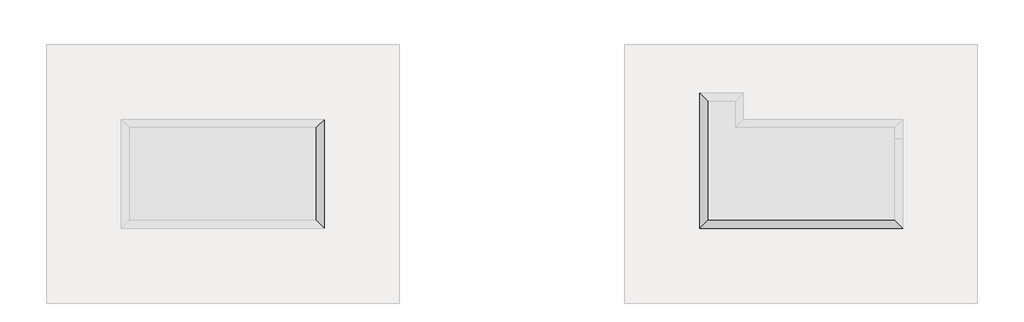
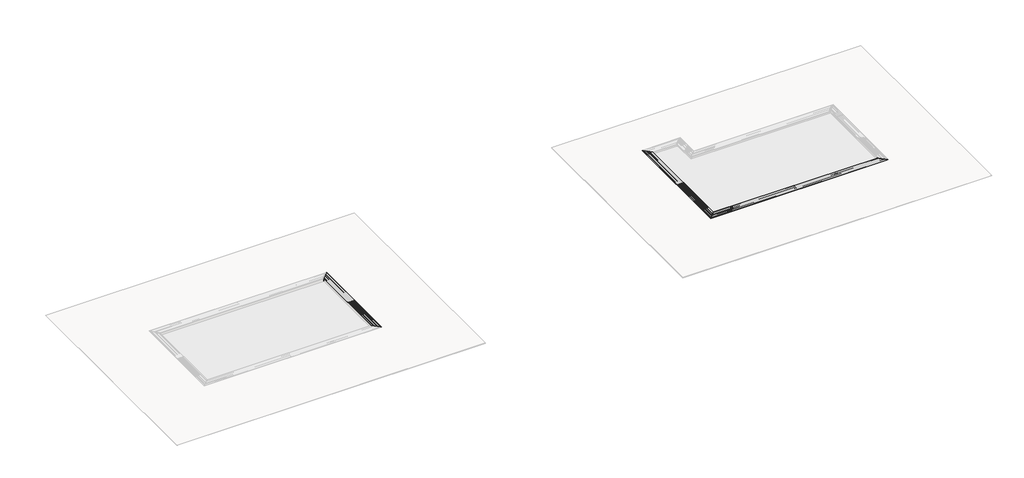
# One storey, part 3 of 5: 6 proxies.
"""IFC4 building model written with IfcOpenShell, lengths in millimetres."""

from ifc_helpers import new_model, si_unit, frame, origin, place, context, project, spatial, polyline, outline, extrude, faceted_brep, element, save

model = new_model("IFC4")

# Units and contexts
model_context = context("Model", 3, world=origin())
ifc_project = project(units=[si_unit("LENGTHUNIT", "METRE", prefix="MILLI")], contexts=[model_context])

# Site, building, storey
site = spatial("IfcSite", under=ifc_project)
building = spatial("IfcBuilding", under=site)
storey = spatial("IfcBuildingStorey", under=building, Name="EXAGRES_Serie MILAN_Piscinas_ejemplo", Elevation=0.0)

# Proxies
placement = place(None, origin())
element("IfcBuildingElementProxy", 1, Name="Wall Sweeps", at=placement, inside=storey, context=model_context, shape_type="SweptSolid", body=[
    extrude(outline(polyline([(-13485.3292468, -9624.7035945), (-13790.3292468, -9319.7035945), (-5150.3292468, -9319.7035945), (-5455.3292468, -9624.7035945), (-13485.3292468, -9624.7035945)])), frame((0.0, 0.0, -181.26), z_axis=(0.0, 0.0, 1.0), x_axis=(1.0, 0.0, 0.0)), (0.0, 0.0, 1.0), 200.0),
])
element("IfcBuildingElementProxy", 2, Name="Wall Sweeps", at=placement, inside=storey, context=model_context, shape_type="Brep", body=[
    faceted_brep([(19242.6707532, -13652.7035945, 0.0), (19229.6707532, -13639.7035945, 0.0), (19229.6707532, -13639.7035945, 33.0), (19559.6707532, -13969.7035945, 33.0), (19559.6707532, -13969.7035945, 21.0), (19553.6707532, -13963.7035945, 21.0), (19553.6707532, -13963.7035945, 22.0), (19549.6707532, -13959.7035945, 22.0), (19549.6707532, -13959.7035945, 21.0), (19543.6707532, -13953.7035945, 21.0), (19543.6707532, -13953.7035945, 22.0), (19539.6707532, -13949.7035945, 22.0), (19539.6707532, -13949.7035945, 21.0), (19533.6707532, -13943.7035945, 21.0), (19533.6707532, -13943.7035945, 22.0), (19529.6707532, -13939.7035945, 22.0), (19529.6707532, -13939.7035945, 21.0), (19523.6707532, -13933.7035945, 21.0), (19523.6707532, -13933.7035945, 22.0), (19519.6707532, -13929.7035945, 22.0), (19519.6707532, -13929.7035945, 21.0), (19513.6707532, -13923.7035945, 21.0), (19513.6707532, -13923.7035945, 22.0), (19509.6707532, -13919.7035945, 22.0), (19509.6707532, -13919.7035945, 21.0), (19503.6707532, -13913.7035945, 21.0), (19503.6707532, -13913.7035945, 22.0), (19499.6707532, -13909.7035945, 22.0), (19499.6707532, -13909.7035945, 21.0), (19493.6707532, -13903.7035945, 21.0), (19493.6707532, -13903.7035945, 22.0), (19489.6707532, -13899.7035945, 22.0), (19489.6707532, -13899.7035945, 21.0), (19483.6707532, -13893.7035945, 21.0), (19483.6707532, -13893.7035945, 22.0), (19479.6707532, -13889.7035945, 22.0), (19479.6707532, -13889.7035945, 21.0), (19473.6707532, -13883.7035945, 21.0), (19473.6707532, -13883.7035945, 22.0), (19469.6707532, -13879.7035945, 22.0), (19469.6707532, -13879.7035945, 21.0), (19463.6707532, -13873.7035945, 21.0), (19463.6707532, -13873.7035945, 22.0), (19459.6707532, -13869.7035945, 22.0), (19459.6707532, -13869.7035945, 21.0), (19453.6707532, -13863.7035945, 21.0), (19453.6707532, -13863.7035945, 22.0), (19449.6707532, -13859.7035945, 22.0), (19449.6707532, -13859.7035945, 21.0), (19443.6707532, -13853.7035945, 21.0), (19443.6707532, -13853.7035945, 22.0), (19439.6707532, -13849.7035945, 22.0), (19439.6707532, -13849.7035945, 21.0), (19433.6707532, -13843.7035945, 21.0), (19433.6707532, -13843.7035945, 22.0), (19429.6707532, -13839.7035945, 22.0), (19429.6707532, -13839.7035945, 21.0), (19423.6707532, -13833.7035945, 21.0), (19423.6707532, -13833.7035945, 22.0), (19419.6707532, -13829.7035945, 22.0), (19419.6707532, -13829.7035945, 21.0), (19413.6707532, -13823.7035945, 21.0), (19413.6707532, -13823.7035945, 22.0), (19409.6707532, -13819.7035945, 22.0), (19409.6707532, -13819.7035945, 21.0), (19403.6707532, -13813.7035945, 21.0), (19403.6707532, -13813.7035945, 22.0), (19399.6707532, -13809.7035945, 22.0), (19399.6707532, -13809.7035945, 21.0), (19393.6707532, -13803.7035945, 21.0), (19393.6707532, -13803.7035945, 22.0), (19389.6707532, -13799.7035945, 22.0), (19389.6707532, -13799.7035945, 21.0), (19383.6707532, -13793.7035945, 21.0), (19383.6707532, -13793.7035945, 22.0), (19379.6707532, -13789.7035945, 22.0), (19379.6707532, -13789.7035945, 21.0), (19373.6707532, -13783.7035945, 21.0), (19373.6707532, -13783.7035945, 22.0), (19369.6707532, -13779.7035945, 22.0), (19369.6707532, -13779.7035945, 21.0), (19363.6707532, -13773.7035945, 21.0), (19363.6707532, -13773.7035945, 22.0), (19359.6707532, -13769.7035945, 22.0), (19359.6707532, -13769.7035945, 21.0), (19353.6707532, -13763.7035945, 21.0), (19353.6707532, -13763.7035945, 22.0), (19349.6707532, -13759.7035945, 22.0), (19349.6707532, -13759.7035945, 21.0), (19343.6707532, -13753.7035945, 21.0), (19343.6707532, -13753.7035945, 22.0), (19339.6707532, -13749.7035945, 22.0), (19339.6707532, -13749.7035945, 21.0), (19333.6707532, -13743.7035945, 21.0), (19333.6707532, -13743.7035945, 22.0), (19329.6707532, -13739.7035945, 22.0), (19329.6707532, -13739.7035945, 21.0), (19323.6707532, -13733.7035945, 21.0), (19323.6707532, -13733.7035945, 22.0), (19319.6707532, -13729.7035945, 22.0), (19319.6707532, -13729.7035945, 21.0), (19313.6707532, -13723.7035945, 21.0), (19313.6707532, -13723.7035945, 22.0), (19309.6707532, -13719.7035945, 22.0), (19309.6707532, -13719.7035945, 21.0), (19303.6707532, -13713.7035945, 21.0), (19303.6707532, -13713.7035945, 22.0), (19299.6707532, -13709.7035945, 22.0), (19299.6707532, -13709.7035945, 21.0), (19293.6707532, -13703.7035945, 21.0), (19293.6707532, -13703.7035945, 22.0), (19289.6707532, -13699.7035945, 22.0), (19289.6707532, -13699.7035945, 21.0), (19283.6707532, -13693.7035945, 21.0), (19283.6707532, -13693.7035945, 22.0), (19279.6707532, -13689.7035945, 22.0), (19279.6707532, -13689.7035945, 21.0), (19273.6707532, -13683.7035945, 21.0), (19273.6707532, -13683.7035945, 22.0), (19269.6707532, -13679.7035945, 22.0), (19269.6707532, -13679.7035945, 21.0), (19263.6707532, -13673.7035945, 21.0), (19263.6707532, -13673.7035945, 22.0), (19259.6707532, -13669.7035945, 22.0), (19259.6707532, -13669.7035945, 21.0), (19253.6707532, -13663.7035945, 21.0), (19253.6707532, -13663.7035945, 22.0), (19249.6707532, -13659.7035945, 22.0), (19249.6707532, -13659.7035945, 21.0), (19242.6707532, -13652.7035945, 21.0), (19242.6707532, -13652.7035945, 14.0), (19241.6707532, -13651.7035945, 14.0), (19241.6707532, -13651.7035945, 8.0), (19242.6707532, -13652.7035945, 8.0), (11216.6707532, -13652.7035945, 0.0), (11216.6707532, -13652.7035945, 8.0), (11217.6707532, -13651.7035945, 8.0), (11217.6707532, -13651.7035945, 14.0), (11216.6707532, -13652.7035945, 14.0), (11216.6707532, -13652.7035945, 21.0), (11209.6707532, -13659.7035945, 21.0), (11209.6707532, -13659.7035945, 22.0), (11205.6707532, -13663.7035945, 22.0), (11205.6707532, -13663.7035945, 21.0), (11199.6707532, -13669.7035945, 21.0), (11199.6707532, -13669.7035945, 22.0), (11195.6707532, -13673.7035945, 22.0), (11195.6707532, -13673.7035945, 21.0), (11189.6707532, -13679.7035945, 21.0), (11189.6707532, -13679.7035945, 22.0), (11185.6707532, -13683.7035945, 22.0), (11185.6707532, -13683.7035945, 21.0), (11179.6707532, -13689.7035945, 21.0), (11179.6707532, -13689.7035945, 22.0), (11175.6707532, -13693.7035945, 22.0), (11175.6707532, -13693.7035945, 21.0), (11169.6707532, -13699.7035945, 21.0), (11169.6707532, -13699.7035945, 22.0), (11165.6707532, -13703.7035945, 22.0), (11165.6707532, -13703.7035945, 21.0), (11159.6707532, -13709.7035945, 21.0), (11159.6707532, -13709.7035945, 22.0), (11155.6707532, -13713.7035945, 22.0), (11155.6707532, -13713.7035945, 21.0), (11149.6707532, -13719.7035945, 21.0), (11149.6707532, -13719.7035945, 22.0), (11145.6707532, -13723.7035945, 22.0), (11145.6707532, -13723.7035945, 21.0), (11139.6707532, -13729.7035945, 21.0), (11139.6707532, -13729.7035945, 22.0), (11135.6707532, -13733.7035945, 22.0), (11135.6707532, -13733.7035945, 21.0), (11129.6707532, -13739.7035945, 21.0), (11129.6707532, -13739.7035945, 22.0), (11125.6707532, -13743.7035945, 22.0), (11125.6707532, -13743.7035945, 21.0), (11119.6707532, -13749.7035945, 21.0), (11119.6707532, -13749.7035945, 22.0), (11115.6707532, -13753.7035945, 22.0), (11115.6707532, -13753.7035945, 21.0), (11109.6707532, -13759.7035945, 21.0), (11109.6707532, -13759.7035945, 22.0), (11105.6707532, -13763.7035945, 22.0), (11105.6707532, -13763.7035945, 21.0), (11099.6707532, -13769.7035945, 21.0), (11099.6707532, -13769.7035945, 22.0), (11095.6707532, -13773.7035945, 22.0), (11095.6707532, -13773.7035945, 21.0), (11089.6707532, -13779.7035945, 21.0), (11089.6707532, -13779.7035945, 22.0), (11085.6707532, -13783.7035945, 22.0), (11085.6707532, -13783.7035945, 21.0), (11079.6707532, -13789.7035945, 21.0), (11079.6707532, -13789.7035945, 22.0), (11075.6707532, -13793.7035945, 22.0), (11075.6707532, -13793.7035945, 21.0), (11069.6707532, -13799.7035945, 21.0), (11069.6707532, -13799.7035945, 22.0), (11065.6707532, -13803.7035945, 22.0), (11065.6707532, -13803.7035945, 21.0), (11059.6707532, -13809.7035945, 21.0), (11059.6707532, -13809.7035945, 22.0), (11055.6707532, -13813.7035945, 22.0), (11055.6707532, -13813.7035945, 21.0), (11049.6707532, -13819.7035945, 21.0), (11049.6707532, -13819.7035945, 22.0), (11045.6707532, -13823.7035945, 22.0), (11045.6707532, -13823.7035945, 21.0), (11039.6707532, -13829.7035945, 21.0), (11039.6707532, -13829.7035945, 22.0), (11035.6707532, -13833.7035945, 22.0), (11035.6707532, -13833.7035945, 21.0), (11029.6707532, -13839.7035945, 21.0), (11029.6707532, -13839.7035945, 22.0), (11025.6707532, -13843.7035945, 22.0), (11025.6707532, -13843.7035945, 21.0), (11019.6707532, -13849.7035945, 21.0), (11019.6707532, -13849.7035945, 22.0), (11015.6707532, -13853.7035945, 22.0), (11015.6707532, -13853.7035945, 21.0), (11009.6707532, -13859.7035945, 21.0), (11009.6707532, -13859.7035945, 22.0), (11005.6707532, -13863.7035945, 22.0), (11005.6707532, -13863.7035945, 21.0), (10999.6707532, -13869.7035945, 21.0), (10999.6707532, -13869.7035945, 22.0), (10995.6707532, -13873.7035945, 22.0), (10995.6707532, -13873.7035945, 21.0), (10989.6707532, -13879.7035945, 21.0), (10989.6707532, -13879.7035945, 22.0), (10985.6707532, -13883.7035945, 22.0), (10985.6707532, -13883.7035945, 21.0), (10979.6707532, -13889.7035945, 21.0), (10979.6707532, -13889.7035945, 22.0), (10975.6707532, -13893.7035945, 22.0), (10975.6707532, -13893.7035945, 21.0), (10969.6707532, -13899.7035945, 21.0), (10969.6707532, -13899.7035945, 22.0), (10965.6707532, -13903.7035945, 22.0), (10965.6707532, -13903.7035945, 21.0), (10959.6707532, -13909.7035945, 21.0), (10959.6707532, -13909.7035945, 22.0), (10955.6707532, -13913.7035945, 22.0), (10955.6707532, -13913.7035945, 21.0), (10949.6707532, -13919.7035945, 21.0), (10949.6707532, -13919.7035945, 22.0), (10945.6707532, -13923.7035945, 22.0), (10945.6707532, -13923.7035945, 21.0), (10939.6707532, -13929.7035945, 21.0), (10939.6707532, -13929.7035945, 22.0), (10935.6707532, -13933.7035945, 22.0), (10935.6707532, -13933.7035945, 21.0), (10929.6707532, -13939.7035945, 21.0), (10929.6707532, -13939.7035945, 22.0), (10925.6707532, -13943.7035945, 22.0), (10925.6707532, -13943.7035945, 21.0), (10919.6707532, -13949.7035945, 21.0), (10919.6707532, -13949.7035945, 22.0), (10915.6707532, -13953.7035945, 22.0), (10915.6707532, -13953.7035945, 21.0), (10909.6707532, -13959.7035945, 21.0), (10909.6707532, -13959.7035945, 22.0), (10905.6707532, -13963.7035945, 22.0), (10905.6707532, -13963.7035945, 21.0), (10899.6707532, -13969.7035945, 21.0), (10899.6707532, -13969.7035945, 33.0), (11229.6707532, -13639.7035945, 33.0), (11229.6707532, -13639.7035945, 0.0)], [[[0, 1, 2, 3, 4, 5, 6, 7, 8, 9, 10, 11, 12, 13, 14, 15, 16, 17, 18, 19, 20, 21, 22, 23, 24, 25, 26, 27, 28, 29, 30, 31, 32, 33, 34, 35, 36, 37, 38, 39, 40, 41, 42, 43, 44, 45, 46, 47, 48, 49, 50, 51, 52, 53, 54, 55, 56, 57, 58, 59, 60, 61, 62, 63, 64, 65, 66, 67, 68, 69, 70, 71, 72, 73, 74, 75, 76, 77, 78, 79, 80, 81, 82, 83, 84, 85, 86, 87, 88, 89, 90, 91, 92, 93, 94, 95, 96, 97, 98, 99, 100, 101, 102, 103, 104, 105, 106, 107, 108, 109, 110, 111, 112, 113, 114, 115, 116, 117, 118, 119, 120, 121, 122, 123, 124, 125, 126, 127, 128, 129, 130, 131, 132, 133]], [[134, 135, 136, 137, 138, 139, 140, 141, 142, 143, 144, 145, 146, 147, 148, 149, 150, 151, 152, 153, 154, 155, 156, 157, 158, 159, 160, 161, 162, 163, 164, 165, 166, 167, 168, 169, 170, 171, 172, 173, 174, 175, 176, 177, 178, 179, 180, 181, 182, 183, 184, 185, 186, 187, 188, 189, 190, 191, 192, 193, 194, 195, 196, 197, 198, 199, 200, 201, 202, 203, 204, 205, 206, 207, 208, 209, 210, 211, 212, 213, 214, 215, 216, 217, 218, 219, 220, 221, 222, 223, 224, 225, 226, 227, 228, 229, 230, 231, 232, 233, 234, 235, 236, 237, 238, 239, 240, 241, 242, 243, 244, 245, 246, 247, 248, 249, 250, 251, 252, 253, 254, 255, 256, 257, 258, 259, 260, 261, 262, 263, 264, 265, 266, 267]], [[1, 0, 134, 267]], [[2, 1, 267, 266]], [[3, 2, 266, 265]], [[4, 3, 265, 264]], [[5, 4, 264, 263]], [[6, 5, 263, 262]], [[7, 6, 262, 261]], [[8, 7, 261, 260]], [[9, 8, 260, 259]], [[10, 9, 259, 258]], [[11, 10, 258, 257]], [[12, 11, 257, 256]], [[13, 12, 256, 255]], [[14, 13, 255, 254]], [[15, 14, 254, 253]], [[16, 15, 253, 252]], [[17, 16, 252, 251]], [[18, 17, 251, 250]], [[19, 18, 250, 249]], [[20, 19, 249, 248]], [[21, 20, 248, 247]], [[22, 21, 247, 246]], [[23, 22, 246, 245]], [[24, 23, 245, 244]], [[25, 24, 244, 243]], [[26, 25, 243, 242]], [[27, 26, 242, 241]], [[28, 27, 241, 240]], [[29, 28, 240, 239]], [[30, 29, 239, 238]], [[31, 30, 238, 237]], [[32, 31, 237, 236]], [[33, 32, 236, 235]], [[34, 33, 235, 234]], [[35, 34, 234, 233]], [[36, 35, 233, 232]], [[37, 36, 232, 231]], [[38, 37, 231, 230]], [[39, 38, 230, 229]], [[40, 39, 229, 228]], [[41, 40, 228, 227]], [[42, 41, 227, 226]], [[43, 42, 226, 225]], [[44, 43, 225, 224]], [[45, 44, 224, 223]], [[46, 45, 223, 222]], [[47, 46, 222, 221]], [[48, 47, 221, 220]], [[49, 48, 220, 219]], [[50, 49, 219, 218]], [[51, 50, 218, 217]], [[52, 51, 217, 216]], [[53, 52, 216, 215]], [[54, 53, 215, 214]], [[55, 54, 214, 213]], [[56, 55, 213, 212]], [[57, 56, 212, 211]], [[58, 57, 211, 210]], [[59, 58, 210, 209]], [[60, 59, 209, 208]], [[61, 60, 208, 207]], [[62, 61, 207, 206]], [[63, 62, 206, 205]], [[64, 63, 205, 204]], [[65, 64, 204, 203]], [[66, 65, 203, 202]], [[67, 66, 202, 201]], [[68, 67, 201, 200]], [[69, 68, 200, 199]], [[70, 69, 199, 198]], [[71, 70, 198, 197]], [[72, 71, 197, 196]], [[73, 72, 196, 195]], [[74, 73, 195, 194]], [[75, 74, 194, 193]], [[76, 75, 193, 192]], [[77, 76, 192, 191]], [[78, 77, 191, 190]], [[79, 78, 190, 189]], [[80, 79, 189, 188]], [[81, 80, 188, 187]], [[82, 81, 187, 186]], [[83, 82, 186, 185]], [[84, 83, 185, 184]], [[85, 84, 184, 183]], [[86, 85, 183, 182]], [[87, 86, 182, 181]], [[88, 87, 181, 180]], [[89, 88, 180, 179]], [[90, 89, 179, 178]], [[91, 90, 178, 177]], [[92, 91, 177, 176]], [[93, 92, 176, 175]], [[94, 93, 175, 174]], [[95, 94, 174, 173]], [[96, 95, 173, 172]], [[97, 96, 172, 171]], [[98, 97, 171, 170]], [[99, 98, 170, 169]], [[100, 99, 169, 168]], [[101, 100, 168, 167]], [[102, 101, 167, 166]], [[103, 102, 166, 165]], [[104, 103, 165, 164]], [[105, 104, 164, 163]], [[106, 105, 163, 162]], [[107, 106, 162, 161]], [[108, 107, 161, 160]], [[109, 108, 160, 159]], [[110, 109, 159, 158]], [[111, 110, 158, 157]], [[112, 111, 157, 156]], [[113, 112, 156, 155]], [[114, 113, 155, 154]], [[115, 114, 154, 153]], [[116, 115, 153, 152]], [[117, 116, 152, 151]], [[118, 117, 151, 150]], [[119, 118, 150, 149]], [[120, 119, 149, 148]], [[121, 120, 148, 147]], [[122, 121, 147, 146]], [[123, 122, 146, 145]], [[124, 123, 145, 144]], [[125, 124, 144, 143]], [[126, 125, 143, 142]], [[127, 126, 142, 141]], [[128, 127, 141, 140]], [[129, 128, 140, 139]], [[130, 129, 139, 138]], [[131, 130, 138, 137]], [[132, 131, 137, 136]], [[133, 132, 136, 135]], [[0, 133, 135, 134]]]),
])
element("IfcBuildingElementProxy", 3, Name="Wall Sweeps", at=placement, inside=storey, context=model_context, shape_type="Brep", body=[
    faceted_brep([(19549.6707532, -13959.7035945, -181.26), (19244.6707532, -13654.7035945, -181.26), (19244.6707532, -13654.7035945, 18.74), (19549.6707532, -13959.7035945, 18.74), (10909.6707532, -13959.7035945, -181.26), (10909.6707532, -13959.7035945, 18.74), (11214.6707532, -13654.7035945, 18.74), (11214.6707532, -13654.7035945, 0.0), (11214.6707532, -13654.7035945, -181.26), (11004.6707532, -13864.7035945, -181.26)], [[[0, 1, 2, 3]], [[4, 5, 6, 7, 8, 9]], [[2, 1, 8, 7, 6]], [[1, 0, 4, 9, 8]], [[3, 2, 6, 5]], [[0, 3, 5, 4]]]),
])
element("IfcBuildingElementProxy", 4, Name="Wall Sweeps", at=placement, inside=storey, context=model_context, shape_type="Brep", body=[
    faceted_brep([(11216.6707532, -13652.7035945, 0.0), (11229.6707532, -13639.7035945, 0.0), (11229.6707532, -13639.7035945, 33.0), (10899.6707532, -13969.7035945, 33.0), (10899.6707532, -13969.7035945, 21.0), (10905.6707532, -13963.7035945, 21.0), (10905.6707532, -13963.7035945, 22.0), (10909.6707532, -13959.7035945, 22.0), (10909.6707532, -13959.7035945, 21.0), (10915.6707532, -13953.7035945, 21.0), (10915.6707532, -13953.7035945, 22.0), (10919.6707532, -13949.7035945, 22.0), (10919.6707532, -13949.7035945, 21.0), (10925.6707532, -13943.7035945, 21.0), (10925.6707532, -13943.7035945, 22.0), (10929.6707532, -13939.7035945, 22.0), (10929.6707532, -13939.7035945, 21.0), (10935.6707532, -13933.7035945, 21.0), (10935.6707532, -13933.7035945, 22.0), (10939.6707532, -13929.7035945, 22.0), (10939.6707532, -13929.7035945, 21.0), (10945.6707532, -13923.7035945, 21.0), (10945.6707532, -13923.7035945, 22.0), (10949.6707532, -13919.7035945, 22.0), (10949.6707532, -13919.7035945, 21.0), (10955.6707532, -13913.7035945, 21.0), (10955.6707532, -13913.7035945, 22.0), (10959.6707532, -13909.7035945, 22.0), (10959.6707532, -13909.7035945, 21.0), (10965.6707532, -13903.7035945, 21.0), (10965.6707532, -13903.7035945, 22.0), (10969.6707532, -13899.7035945, 22.0), (10969.6707532, -13899.7035945, 21.0), (10975.6707532, -13893.7035945, 21.0), (10975.6707532, -13893.7035945, 22.0), (10979.6707532, -13889.7035945, 22.0), (10979.6707532, -13889.7035945, 21.0), (10985.6707532, -13883.7035945, 21.0), (10985.6707532, -13883.7035945, 22.0), (10989.6707532, -13879.7035945, 22.0), (10989.6707532, -13879.7035945, 21.0), (10995.6707532, -13873.7035945, 21.0), (10995.6707532, -13873.7035945, 22.0), (10999.6707532, -13869.7035945, 22.0), (10999.6707532, -13869.7035945, 21.0), (11005.6707532, -13863.7035945, 21.0), (11005.6707532, -13863.7035945, 22.0), (11009.6707532, -13859.7035945, 22.0), (11009.6707532, -13859.7035945, 21.0), (11015.6707532, -13853.7035945, 21.0), (11015.6707532, -13853.7035945, 22.0), (11019.6707532, -13849.7035945, 22.0), (11019.6707532, -13849.7035945, 21.0), (11025.6707532, -13843.7035945, 21.0), (11025.6707532, -13843.7035945, 22.0), (11029.6707532, -13839.7035945, 22.0), (11029.6707532, -13839.7035945, 21.0), (11035.6707532, -13833.7035945, 21.0), (11035.6707532, -13833.7035945, 22.0), (11039.6707532, -13829.7035945, 22.0), (11039.6707532, -13829.7035945, 21.0), (11045.6707532, -13823.7035945, 21.0), (11045.6707532, -13823.7035945, 22.0), (11049.6707532, -13819.7035945, 22.0), (11049.6707532, -13819.7035945, 21.0), (11055.6707532, -13813.7035945, 21.0), (11055.6707532, -13813.7035945, 22.0), (11059.6707532, -13809.7035945, 22.0), (11059.6707532, -13809.7035945, 21.0), (11065.6707532, -13803.7035945, 21.0), (11065.6707532, -13803.7035945, 22.0), (11069.6707532, -13799.7035945, 22.0), (11069.6707532, -13799.7035945, 21.0), (11075.6707532, -13793.7035945, 21.0), (11075.6707532, -13793.7035945, 22.0), (11079.6707532, -13789.7035945, 22.0), (11079.6707532, -13789.7035945, 21.0), (11085.6707532, -13783.7035945, 21.0), (11085.6707532, -13783.7035945, 22.0), (11089.6707532, -13779.7035945, 22.0), (11089.6707532, -13779.7035945, 21.0), (11095.6707532, -13773.7035945, 21.0), (11095.6707532, -13773.7035945, 22.0), (11099.6707532, -13769.7035945, 22.0), (11099.6707532, -13769.7035945, 21.0), (11105.6707532, -13763.7035945, 21.0), (11105.6707532, -13763.7035945, 22.0), (11109.6707532, -13759.7035945, 22.0), (11109.6707532, -13759.7035945, 21.0), (11115.6707532, -13753.7035945, 21.0), (11115.6707532, -13753.7035945, 22.0), (11119.6707532, -13749.7035945, 22.0), (11119.6707532, -13749.7035945, 21.0), (11125.6707532, -13743.7035945, 21.0), (11125.6707532, -13743.7035945, 22.0), (11129.6707532, -13739.7035945, 22.0), (11129.6707532, -13739.7035945, 21.0), (11135.6707532, -13733.7035945, 21.0), (11135.6707532, -13733.7035945, 22.0), (11139.6707532, -13729.7035945, 22.0), (11139.6707532, -13729.7035945, 21.0), (11145.6707532, -13723.7035945, 21.0), (11145.6707532, -13723.7035945, 22.0), (11149.6707532, -13719.7035945, 22.0), (11149.6707532, -13719.7035945, 21.0), (11155.6707532, -13713.7035945, 21.0), (11155.6707532, -13713.7035945, 22.0), (11159.6707532, -13709.7035945, 22.0), (11159.6707532, -13709.7035945, 21.0), (11165.6707532, -13703.7035945, 21.0), (11165.6707532, -13703.7035945, 22.0), (11169.6707532, -13699.7035945, 22.0), (11169.6707532, -13699.7035945, 21.0), (11175.6707532, -13693.7035945, 21.0), (11175.6707532, -13693.7035945, 22.0), (11179.6707532, -13689.7035945, 22.0), (11179.6707532, -13689.7035945, 21.0), (11185.6707532, -13683.7035945, 21.0), (11185.6707532, -13683.7035945, 22.0), (11189.6707532, -13679.7035945, 22.0), (11189.6707532, -13679.7035945, 21.0), (11195.6707532, -13673.7035945, 21.0), (11195.6707532, -13673.7035945, 22.0), (11199.6707532, -13669.7035945, 22.0), (11199.6707532, -13669.7035945, 21.0), (11205.6707532, -13663.7035945, 21.0), (11205.6707532, -13663.7035945, 22.0), (11209.6707532, -13659.7035945, 22.0), (11209.6707532, -13659.7035945, 21.0), (11216.6707532, -13652.7035945, 21.0), (11216.6707532, -13652.7035945, 14.0), (11217.6707532, -13651.7035945, 14.0), (11217.6707532, -13651.7035945, 8.0), (11216.6707532, -13652.7035945, 8.0), (11216.6707532, -8506.7035945, 0.0), (11216.6707532, -8506.7035945, 8.0), (11217.6707532, -8507.7035945, 8.0), (11217.6707532, -8507.7035945, 14.0), (11216.6707532, -8506.7035945, 14.0), (11216.6707532, -8506.7035945, 21.0), (11209.6707532, -8499.7035945, 21.0), (11209.6707532, -8499.7035945, 22.0), (11205.6707532, -8495.7035945, 22.0), (11205.6707532, -8495.7035945, 21.0), (11199.6707532, -8489.7035945, 21.0), (11199.6707532, -8489.7035945, 22.0), (11195.6707532, -8485.7035945, 22.0), (11195.6707532, -8485.7035945, 21.0), (11189.6707532, -8479.7035945, 21.0), (11189.6707532, -8479.7035945, 22.0), (11185.6707532, -8475.7035945, 22.0), (11185.6707532, -8475.7035945, 21.0), (11179.6707532, -8469.7035945, 21.0), (11179.6707532, -8469.7035945, 22.0), (11175.6707532, -8465.7035945, 22.0), (11175.6707532, -8465.7035945, 21.0), (11169.6707532, -8459.7035945, 21.0), (11169.6707532, -8459.7035945, 22.0), (11165.6707532, -8455.7035945, 22.0), (11165.6707532, -8455.7035945, 21.0), (11159.6707532, -8449.7035945, 21.0), (11159.6707532, -8449.7035945, 22.0), (11155.6707532, -8445.7035945, 22.0), (11155.6707532, -8445.7035945, 21.0), (11149.6707532, -8439.7035945, 21.0), (11149.6707532, -8439.7035945, 22.0), (11145.6707532, -8435.7035945, 22.0), (11145.6707532, -8435.7035945, 21.0), (11139.6707532, -8429.7035945, 21.0), (11139.6707532, -8429.7035945, 22.0), (11135.6707532, -8425.7035945, 22.0), (11135.6707532, -8425.7035945, 21.0), (11129.6707532, -8419.7035945, 21.0), (11129.6707532, -8419.7035945, 22.0), (11125.6707532, -8415.7035945, 22.0), (11125.6707532, -8415.7035945, 21.0), (11119.6707532, -8409.7035945, 21.0), (11119.6707532, -8409.7035945, 22.0), (11115.6707532, -8405.7035945, 22.0), (11115.6707532, -8405.7035945, 21.0), (11109.6707532, -8399.7035945, 21.0), (11109.6707532, -8399.7035945, 22.0), (11105.6707532, -8395.7035945, 22.0), (11105.6707532, -8395.7035945, 21.0), (11099.6707532, -8389.7035945, 21.0), (11099.6707532, -8389.7035945, 22.0), (11095.6707532, -8385.7035945, 22.0), (11095.6707532, -8385.7035945, 21.0), (11089.6707532, -8379.7035945, 21.0), (11089.6707532, -8379.7035945, 22.0), (11085.6707532, -8375.7035945, 22.0), (11085.6707532, -8375.7035945, 21.0), (11079.6707532, -8369.7035945, 21.0), (11079.6707532, -8369.7035945, 22.0), (11075.6707532, -8365.7035945, 22.0), (11075.6707532, -8365.7035945, 21.0), (11069.6707532, -8359.7035945, 21.0), (11069.6707532, -8359.7035945, 22.0), (11065.6707532, -8355.7035945, 22.0), (11065.6707532, -8355.7035945, 21.0), (11059.6707532, -8349.7035945, 21.0), (11059.6707532, -8349.7035945, 22.0), (11055.6707532, -8345.7035945, 22.0), (11055.6707532, -8345.7035945, 21.0), (11049.6707532, -8339.7035945, 21.0), (11049.6707532, -8339.7035945, 22.0), (11045.6707532, -8335.7035945, 22.0), (11045.6707532, -8335.7035945, 21.0), (11039.6707532, -8329.7035945, 21.0), (11039.6707532, -8329.7035945, 22.0), (11035.6707532, -8325.7035945, 22.0), (11035.6707532, -8325.7035945, 21.0), (11029.6707532, -8319.7035945, 21.0), (11029.6707532, -8319.7035945, 22.0), (11025.6707532, -8315.7035945, 22.0), (11025.6707532, -8315.7035945, 21.0), (11019.6707532, -8309.7035945, 21.0), (11019.6707532, -8309.7035945, 22.0), (11015.6707532, -8305.7035945, 22.0), (11015.6707532, -8305.7035945, 21.0), (11009.6707532, -8299.7035945, 21.0), (11009.6707532, -8299.7035945, 22.0), (11005.6707532, -8295.7035945, 22.0), (11005.6707532, -8295.7035945, 21.0), (10999.6707532, -8289.7035945, 21.0), (10999.6707532, -8289.7035945, 22.0), (10995.6707532, -8285.7035945, 22.0), (10995.6707532, -8285.7035945, 21.0), (10989.6707532, -8279.7035945, 21.0), (10989.6707532, -8279.7035945, 22.0), (10985.6707532, -8275.7035945, 22.0), (10985.6707532, -8275.7035945, 21.0), (10979.6707532, -8269.7035945, 21.0), (10979.6707532, -8269.7035945, 22.0), (10975.6707532, -8265.7035945, 22.0), (10975.6707532, -8265.7035945, 21.0), (10969.6707532, -8259.7035945, 21.0), (10969.6707532, -8259.7035945, 22.0), (10965.6707532, -8255.7035945, 22.0), (10965.6707532, -8255.7035945, 21.0), (10959.6707532, -8249.7035945, 21.0), (10959.6707532, -8249.7035945, 22.0), (10955.6707532, -8245.7035945, 22.0), (10955.6707532, -8245.7035945, 21.0), (10949.6707532, -8239.7035945, 21.0), (10949.6707532, -8239.7035945, 22.0), (10945.6707532, -8235.7035945, 22.0), (10945.6707532, -8235.7035945, 21.0), (10939.6707532, -8229.7035945, 21.0), (10939.6707532, -8229.7035945, 22.0), (10935.6707532, -8225.7035945, 22.0), (10935.6707532, -8225.7035945, 21.0), (10929.6707532, -8219.7035945, 21.0), (10929.6707532, -8219.7035945, 22.0), (10925.6707532, -8215.7035945, 22.0), (10925.6707532, -8215.7035945, 21.0), (10919.6707532, -8209.7035945, 21.0), (10919.6707532, -8209.7035945, 22.0), (10915.6707532, -8205.7035945, 22.0), (10915.6707532, -8205.7035945, 21.0), (10909.6707532, -8199.7035945, 21.0), (10909.6707532, -8199.7035945, 22.0), (10905.6707532, -8195.7035945, 22.0), (10905.6707532, -8195.7035945, 21.0), (10899.6707532, -8189.7035945, 21.0), (10899.6707532, -8189.7035945, 33.0), (11229.6707532, -8519.7035945, 33.0), (11229.6707532, -8519.7035945, 0.0)], [[[0, 1, 2, 3, 4, 5, 6, 7, 8, 9, 10, 11, 12, 13, 14, 15, 16, 17, 18, 19, 20, 21, 22, 23, 24, 25, 26, 27, 28, 29, 30, 31, 32, 33, 34, 35, 36, 37, 38, 39, 40, 41, 42, 43, 44, 45, 46, 47, 48, 49, 50, 51, 52, 53, 54, 55, 56, 57, 58, 59, 60, 61, 62, 63, 64, 65, 66, 67, 68, 69, 70, 71, 72, 73, 74, 75, 76, 77, 78, 79, 80, 81, 82, 83, 84, 85, 86, 87, 88, 89, 90, 91, 92, 93, 94, 95, 96, 97, 98, 99, 100, 101, 102, 103, 104, 105, 106, 107, 108, 109, 110, 111, 112, 113, 114, 115, 116, 117, 118, 119, 120, 121, 122, 123, 124, 125, 126, 127, 128, 129, 130, 131, 132, 133]], [[134, 135, 136, 137, 138, 139, 140, 141, 142, 143, 144, 145, 146, 147, 148, 149, 150, 151, 152, 153, 154, 155, 156, 157, 158, 159, 160, 161, 162, 163, 164, 165, 166, 167, 168, 169, 170, 171, 172, 173, 174, 175, 176, 177, 178, 179, 180, 181, 182, 183, 184, 185, 186, 187, 188, 189, 190, 191, 192, 193, 194, 195, 196, 197, 198, 199, 200, 201, 202, 203, 204, 205, 206, 207, 208, 209, 210, 211, 212, 213, 214, 215, 216, 217, 218, 219, 220, 221, 222, 223, 224, 225, 226, 227, 228, 229, 230, 231, 232, 233, 234, 235, 236, 237, 238, 239, 240, 241, 242, 243, 244, 245, 246, 247, 248, 249, 250, 251, 252, 253, 254, 255, 256, 257, 258, 259, 260, 261, 262, 263, 264, 265, 266, 267]], [[1, 0, 134, 267]], [[2, 1, 267, 266]], [[3, 2, 266, 265]], [[4, 3, 265, 264]], [[5, 4, 264, 263]], [[6, 5, 263, 262]], [[7, 6, 262, 261]], [[8, 7, 261, 260]], [[9, 8, 260, 259]], [[10, 9, 259, 258]], [[11, 10, 258, 257]], [[12, 11, 257, 256]], [[13, 12, 256, 255]], [[14, 13, 255, 254]], [[15, 14, 254, 253]], [[16, 15, 253, 252]], [[17, 16, 252, 251]], [[18, 17, 251, 250]], [[19, 18, 250, 249]], [[20, 19, 249, 248]], [[21, 20, 248, 247]], [[22, 21, 247, 246]], [[23, 22, 246, 245]], [[24, 23, 245, 244]], [[25, 24, 244, 243]], [[26, 25, 243, 242]], [[27, 26, 242, 241]], [[28, 27, 241, 240]], [[29, 28, 240, 239]], [[30, 29, 239, 238]], [[31, 30, 238, 237]], [[32, 31, 237, 236]], [[33, 32, 236, 235]], [[34, 33, 235, 234]], [[35, 34, 234, 233]], [[36, 35, 233, 232]], [[37, 36, 232, 231]], [[38, 37, 231, 230]], [[39, 38, 230, 229]], [[40, 39, 229, 228]], [[41, 40, 228, 227]], [[42, 41, 227, 226]], [[43, 42, 226, 225]], [[44, 43, 225, 224]], [[45, 44, 224, 223]], [[46, 45, 223, 222]], [[47, 46, 222, 221]], [[48, 47, 221, 220]], [[49, 48, 220, 219]], [[50, 49, 219, 218]], [[51, 50, 218, 217]], [[52, 51, 217, 216]], [[53, 52, 216, 215]], [[54, 53, 215, 214]], [[55, 54, 214, 213]], [[56, 55, 213, 212]], [[57, 56, 212, 211]], [[58, 57, 211, 210]], [[59, 58, 210, 209]], [[60, 59, 209, 208]], [[61, 60, 208, 207]], [[62, 61, 207, 206]], [[63, 62, 206, 205]], [[64, 63, 205, 204]], [[65, 64, 204, 203]], [[66, 65, 203, 202]], [[67, 66, 202, 201]], [[68, 67, 201, 200]], [[69, 68, 200, 199]], [[70, 69, 199, 198]], [[71, 70, 198, 197]], [[72, 71, 197, 196]], [[73, 72, 196, 195]], [[74, 73, 195, 194]], [[75, 74, 194, 193]], [[76, 75, 193, 192]], [[77, 76, 192, 191]], [[78, 77, 191, 190]], [[79, 78, 190, 189]], [[80, 79, 189, 188]], [[81, 80, 188, 187]], [[82, 81, 187, 186]], [[83, 82, 186, 185]], [[84, 83, 185, 184]], [[85, 84, 184, 183]], [[86, 85, 183, 182]], [[87, 86, 182, 181]], [[88, 87, 181, 180]], [[89, 88, 180, 179]], [[90, 89, 179, 178]], [[91, 90, 178, 177]], [[92, 91, 177, 176]], [[93, 92, 176, 175]], [[94, 93, 175, 174]], [[95, 94, 174, 173]], [[96, 95, 173, 172]], [[97, 96, 172, 171]], [[98, 97, 171, 170]], [[99, 98, 170, 169]], [[100, 99, 169, 168]], [[101, 100, 168, 167]], [[102, 101, 167, 166]], [[103, 102, 166, 165]], [[104, 103, 165, 164]], [[105, 104, 164, 163]], [[106, 105, 163, 162]], [[107, 106, 162, 161]], [[108, 107, 161, 160]], [[109, 108, 160, 159]], [[110, 109, 159, 158]], [[111, 110, 158, 157]], [[112, 111, 157, 156]], [[113, 112, 156, 155]], [[114, 113, 155, 154]], [[115, 114, 154, 153]], [[116, 115, 153, 152]], [[117, 116, 152, 151]], [[118, 117, 151, 150]], [[119, 118, 150, 149]], [[120, 119, 149, 148]], [[121, 120, 148, 147]], [[122, 121, 147, 146]], [[123, 122, 146, 145]], [[124, 123, 145, 144]], [[125, 124, 144, 143]], [[126, 125, 143, 142]], [[127, 126, 142, 141]], [[128, 127, 141, 140]], [[129, 128, 140, 139]], [[130, 129, 139, 138]], [[131, 130, 138, 137]], [[132, 131, 137, 136]], [[133, 132, 136, 135]], [[0, 133, 135, 134]]]),
])
element("IfcBuildingElementProxy", 5, Name="Wall Sweeps", at=placement, inside=storey, context=model_context, shape_type="Brep", body=[
    faceted_brep([(-5457.3292468, -9626.7035945, 0.0), (-5470.3292468, -9639.7035945, 0.0), (-5470.3292468, -9639.7035945, 33.0), (-5140.3292468, -9309.7035945, 33.0), (-5140.3292468, -9309.7035945, 21.0), (-5146.3292468, -9315.7035945, 21.0), (-5146.3292468, -9315.7035945, 22.0), (-5150.3292468, -9319.7035945, 22.0), (-5150.3292468, -9319.7035945, 21.0), (-5156.3292468, -9325.7035945, 21.0), (-5156.3292468, -9325.7035945, 22.0), (-5160.3292468, -9329.7035945, 22.0), (-5160.3292468, -9329.7035945, 21.0), (-5166.3292468, -9335.7035945, 21.0), (-5166.3292468, -9335.7035945, 22.0), (-5170.3292468, -9339.7035945, 22.0), (-5170.3292468, -9339.7035945, 21.0), (-5176.3292468, -9345.7035945, 21.0), (-5176.3292468, -9345.7035945, 22.0), (-5180.3292468, -9349.7035945, 22.0), (-5180.3292468, -9349.7035945, 21.0), (-5186.3292468, -9355.7035945, 21.0), (-5186.3292468, -9355.7035945, 22.0), (-5190.3292468, -9359.7035945, 22.0), (-5190.3292468, -9359.7035945, 21.0), (-5196.3292468, -9365.7035945, 21.0), (-5196.3292468, -9365.7035945, 22.0), (-5200.3292468, -9369.7035945, 22.0), (-5200.3292468, -9369.7035945, 21.0), (-5206.3292468, -9375.7035945, 21.0), (-5206.3292468, -9375.7035945, 22.0), (-5210.3292468, -9379.7035945, 22.0), (-5210.3292468, -9379.7035945, 21.0), (-5216.3292468, -9385.7035945, 21.0), (-5216.3292468, -9385.7035945, 22.0), (-5220.3292468, -9389.7035945, 22.0), (-5220.3292468, -9389.7035945, 21.0), (-5226.3292468, -9395.7035945, 21.0), (-5226.3292468, -9395.7035945, 22.0), (-5230.3292468, -9399.7035945, 22.0), (-5230.3292468, -9399.7035945, 21.0), (-5236.3292468, -9405.7035945, 21.0), (-5236.3292468, -9405.7035945, 22.0), (-5240.3292468, -9409.7035945, 22.0), (-5240.3292468, -9409.7035945, 21.0), (-5246.3292468, -9415.7035945, 21.0), (-5246.3292468, -9415.7035945, 22.0), (-5250.3292468, -9419.7035945, 22.0), (-5250.3292468, -9419.7035945, 21.0), (-5256.3292468, -9425.7035945, 21.0), (-5256.3292468, -9425.7035945, 22.0), (-5260.3292468, -9429.7035945, 22.0), (-5260.3292468, -9429.7035945, 21.0), (-5266.3292468, -9435.7035945, 21.0), (-5266.3292468, -9435.7035945, 22.0), (-5270.3292468, -9439.7035945, 22.0), (-5270.3292468, -9439.7035945, 21.0), (-5276.3292468, -9445.7035945, 21.0), (-5276.3292468, -9445.7035945, 22.0), (-5280.3292468, -9449.7035945, 22.0), (-5280.3292468, -9449.7035945, 21.0), (-5286.3292468, -9455.7035945, 21.0), (-5286.3292468, -9455.7035945, 22.0), (-5290.3292468, -9459.7035945, 22.0), (-5290.3292468, -9459.7035945, 21.0), (-5296.3292468, -9465.7035945, 21.0), (-5296.3292468, -9465.7035945, 22.0), (-5300.3292468, -9469.7035945, 22.0), (-5300.3292468, -9469.7035945, 21.0), (-5306.3292468, -9475.7035945, 21.0), (-5306.3292468, -9475.7035945, 22.0), (-5310.3292468, -9479.7035945, 22.0), (-5310.3292468, -9479.7035945, 21.0), (-5316.3292468, -9485.7035945, 21.0), (-5316.3292468, -9485.7035945, 22.0), (-5320.3292468, -9489.7035945, 22.0), (-5320.3292468, -9489.7035945, 21.0), (-5326.3292468, -9495.7035945, 21.0), (-5326.3292468, -9495.7035945, 22.0), (-5330.3292468, -9499.7035945, 22.0), (-5330.3292468, -9499.7035945, 21.0), (-5336.3292468, -9505.7035945, 21.0), (-5336.3292468, -9505.7035945, 22.0), (-5340.3292468, -9509.7035945, 22.0), (-5340.3292468, -9509.7035945, 21.0), (-5346.3292468, -9515.7035945, 21.0), (-5346.3292468, -9515.7035945, 22.0), (-5350.3292468, -9519.7035945, 22.0), (-5350.3292468, -9519.7035945, 21.0), (-5356.3292468, -9525.7035945, 21.0), (-5356.3292468, -9525.7035945, 22.0), (-5360.3292468, -9529.7035945, 22.0), (-5360.3292468, -9529.7035945, 21.0), (-5366.3292468, -9535.7035945, 21.0), (-5366.3292468, -9535.7035945, 22.0), (-5370.3292468, -9539.7035945, 22.0), (-5370.3292468, -9539.7035945, 21.0), (-5376.3292468, -9545.7035945, 21.0), (-5376.3292468, -9545.7035945, 22.0), (-5380.3292468, -9549.7035945, 22.0), (-5380.3292468, -9549.7035945, 21.0), (-5386.3292468, -9555.7035945, 21.0), (-5386.3292468, -9555.7035945, 22.0), (-5390.3292468, -9559.7035945, 22.0), (-5390.3292468, -9559.7035945, 21.0), (-5396.3292468, -9565.7035945, 21.0), (-5396.3292468, -9565.7035945, 22.0), (-5400.3292468, -9569.7035945, 22.0), (-5400.3292468, -9569.7035945, 21.0), (-5406.3292468, -9575.7035945, 21.0), (-5406.3292468, -9575.7035945, 22.0), (-5410.3292468, -9579.7035945, 22.0), (-5410.3292468, -9579.7035945, 21.0), (-5416.3292468, -9585.7035945, 21.0), (-5416.3292468, -9585.7035945, 22.0), (-5420.3292468, -9589.7035945, 22.0), (-5420.3292468, -9589.7035945, 21.0), (-5426.3292468, -9595.7035945, 21.0), (-5426.3292468, -9595.7035945, 22.0), (-5430.3292468, -9599.7035945, 22.0), (-5430.3292468, -9599.7035945, 21.0), (-5436.3292468, -9605.7035945, 21.0), (-5436.3292468, -9605.7035945, 22.0), (-5440.3292468, -9609.7035945, 22.0), (-5440.3292468, -9609.7035945, 21.0), (-5446.3292468, -9615.7035945, 21.0), (-5446.3292468, -9615.7035945, 22.0), (-5450.3292468, -9619.7035945, 22.0), (-5450.3292468, -9619.7035945, 21.0), (-5457.3292468, -9626.7035945, 21.0), (-5457.3292468, -9626.7035945, 14.0), (-5458.3292468, -9627.7035945, 14.0), (-5458.3292468, -9627.7035945, 8.0), (-5457.3292468, -9626.7035945, 8.0), (-5457.3292468, -13652.7035945, 0.0), (-5457.3292468, -13652.7035945, 8.0), (-5458.3292468, -13651.7035945, 8.0), (-5458.3292468, -13651.7035945, 14.0), (-5457.3292468, -13652.7035945, 14.0), (-5457.3292468, -13652.7035945, 21.0), (-5450.3292468, -13659.7035945, 21.0), (-5450.3292468, -13659.7035945, 22.0), (-5446.3292468, -13663.7035945, 22.0), (-5446.3292468, -13663.7035945, 21.0), (-5440.3292468, -13669.7035945, 21.0), (-5440.3292468, -13669.7035945, 22.0), (-5436.3292468, -13673.7035945, 22.0), (-5436.3292468, -13673.7035945, 21.0), (-5430.3292468, -13679.7035945, 21.0), (-5430.3292468, -13679.7035945, 22.0), (-5426.3292468, -13683.7035945, 22.0), (-5426.3292468, -13683.7035945, 21.0), (-5420.3292468, -13689.7035945, 21.0), (-5420.3292468, -13689.7035945, 22.0), (-5416.3292468, -13693.7035945, 22.0), (-5416.3292468, -13693.7035945, 21.0), (-5410.3292468, -13699.7035945, 21.0), (-5410.3292468, -13699.7035945, 22.0), (-5406.3292468, -13703.7035945, 22.0), (-5406.3292468, -13703.7035945, 21.0), (-5400.3292468, -13709.7035945, 21.0), (-5400.3292468, -13709.7035945, 22.0), (-5396.3292468, -13713.7035945, 22.0), (-5396.3292468, -13713.7035945, 21.0), (-5390.3292468, -13719.7035945, 21.0), (-5390.3292468, -13719.7035945, 22.0), (-5386.3292468, -13723.7035945, 22.0), (-5386.3292468, -13723.7035945, 21.0), (-5380.3292468, -13729.7035945, 21.0), (-5380.3292468, -13729.7035945, 22.0), (-5376.3292468, -13733.7035945, 22.0), (-5376.3292468, -13733.7035945, 21.0), (-5370.3292468, -13739.7035945, 21.0), (-5370.3292468, -13739.7035945, 22.0), (-5366.3292468, -13743.7035945, 22.0), (-5366.3292468, -13743.7035945, 21.0), (-5360.3292468, -13749.7035945, 21.0), (-5360.3292468, -13749.7035945, 22.0), (-5356.3292468, -13753.7035945, 22.0), (-5356.3292468, -13753.7035945, 21.0), (-5350.3292468, -13759.7035945, 21.0), (-5350.3292468, -13759.7035945, 22.0), (-5346.3292468, -13763.7035945, 22.0), (-5346.3292468, -13763.7035945, 21.0), (-5340.3292468, -13769.7035945, 21.0), (-5340.3292468, -13769.7035945, 22.0), (-5336.3292468, -13773.7035945, 22.0), (-5336.3292468, -13773.7035945, 21.0), (-5330.3292468, -13779.7035945, 21.0), (-5330.3292468, -13779.7035945, 22.0), (-5326.3292468, -13783.7035945, 22.0), (-5326.3292468, -13783.7035945, 21.0), (-5320.3292468, -13789.7035945, 21.0), (-5320.3292468, -13789.7035945, 22.0), (-5316.3292468, -13793.7035945, 22.0), (-5316.3292468, -13793.7035945, 21.0), (-5310.3292468, -13799.7035945, 21.0), (-5310.3292468, -13799.7035945, 22.0), (-5306.3292468, -13803.7035945, 22.0), (-5306.3292468, -13803.7035945, 21.0), (-5300.3292468, -13809.7035945, 21.0), (-5300.3292468, -13809.7035945, 22.0), (-5296.3292468, -13813.7035945, 22.0), (-5296.3292468, -13813.7035945, 21.0), (-5290.3292468, -13819.7035945, 21.0), (-5290.3292468, -13819.7035945, 22.0), (-5286.3292468, -13823.7035945, 22.0), (-5286.3292468, -13823.7035945, 21.0), (-5280.3292468, -13829.7035945, 21.0), (-5280.3292468, -13829.7035945, 22.0), (-5276.3292468, -13833.7035945, 22.0), (-5276.3292468, -13833.7035945, 21.0), (-5270.3292468, -13839.7035945, 21.0), (-5270.3292468, -13839.7035945, 22.0), (-5266.3292468, -13843.7035945, 22.0), (-5266.3292468, -13843.7035945, 21.0), (-5260.3292468, -13849.7035945, 21.0), (-5260.3292468, -13849.7035945, 22.0), (-5256.3292468, -13853.7035945, 22.0), (-5256.3292468, -13853.7035945, 21.0), (-5250.3292468, -13859.7035945, 21.0), (-5250.3292468, -13859.7035945, 22.0), (-5246.3292468, -13863.7035945, 22.0), (-5246.3292468, -13863.7035945, 21.0), (-5240.3292468, -13869.7035945, 21.0), (-5240.3292468, -13869.7035945, 22.0), (-5236.3292468, -13873.7035945, 22.0), (-5236.3292468, -13873.7035945, 21.0), (-5230.3292468, -13879.7035945, 21.0), (-5230.3292468, -13879.7035945, 22.0), (-5226.3292468, -13883.7035945, 22.0), (-5226.3292468, -13883.7035945, 21.0), (-5220.3292468, -13889.7035945, 21.0), (-5220.3292468, -13889.7035945, 22.0), (-5216.3292468, -13893.7035945, 22.0), (-5216.3292468, -13893.7035945, 21.0), (-5210.3292468, -13899.7035945, 21.0), (-5210.3292468, -13899.7035945, 22.0), (-5206.3292468, -13903.7035945, 22.0), (-5206.3292468, -13903.7035945, 21.0), (-5200.3292468, -13909.7035945, 21.0), (-5200.3292468, -13909.7035945, 22.0), (-5196.3292468, -13913.7035945, 22.0), (-5196.3292468, -13913.7035945, 21.0), (-5190.3292468, -13919.7035945, 21.0), (-5190.3292468, -13919.7035945, 22.0), (-5186.3292468, -13923.7035945, 22.0), (-5186.3292468, -13923.7035945, 21.0), (-5180.3292468, -13929.7035945, 21.0), (-5180.3292468, -13929.7035945, 22.0), (-5176.3292468, -13933.7035945, 22.0), (-5176.3292468, -13933.7035945, 21.0), (-5170.3292468, -13939.7035945, 21.0), (-5170.3292468, -13939.7035945, 22.0), (-5166.3292468, -13943.7035945, 22.0), (-5166.3292468, -13943.7035945, 21.0), (-5160.3292468, -13949.7035945, 21.0), (-5160.3292468, -13949.7035945, 22.0), (-5156.3292468, -13953.7035945, 22.0), (-5156.3292468, -13953.7035945, 21.0), (-5150.3292468, -13959.7035945, 21.0), (-5150.3292468, -13959.7035945, 22.0), (-5146.3292468, -13963.7035945, 22.0), (-5146.3292468, -13963.7035945, 21.0), (-5140.3292468, -13969.7035945, 21.0), (-5140.3292468, -13969.7035945, 33.0), (-5470.3292468, -13639.7035945, 33.0), (-5470.3292468, -13639.7035945, 0.0)], [[[0, 1, 2, 3, 4, 5, 6, 7, 8, 9, 10, 11, 12, 13, 14, 15, 16, 17, 18, 19, 20, 21, 22, 23, 24, 25, 26, 27, 28, 29, 30, 31, 32, 33, 34, 35, 36, 37, 38, 39, 40, 41, 42, 43, 44, 45, 46, 47, 48, 49, 50, 51, 52, 53, 54, 55, 56, 57, 58, 59, 60, 61, 62, 63, 64, 65, 66, 67, 68, 69, 70, 71, 72, 73, 74, 75, 76, 77, 78, 79, 80, 81, 82, 83, 84, 85, 86, 87, 88, 89, 90, 91, 92, 93, 94, 95, 96, 97, 98, 99, 100, 101, 102, 103, 104, 105, 106, 107, 108, 109, 110, 111, 112, 113, 114, 115, 116, 117, 118, 119, 120, 121, 122, 123, 124, 125, 126, 127, 128, 129, 130, 131, 132, 133]], [[134, 135, 136, 137, 138, 139, 140, 141, 142, 143, 144, 145, 146, 147, 148, 149, 150, 151, 152, 153, 154, 155, 156, 157, 158, 159, 160, 161, 162, 163, 164, 165, 166, 167, 168, 169, 170, 171, 172, 173, 174, 175, 176, 177, 178, 179, 180, 181, 182, 183, 184, 185, 186, 187, 188, 189, 190, 191, 192, 193, 194, 195, 196, 197, 198, 199, 200, 201, 202, 203, 204, 205, 206, 207, 208, 209, 210, 211, 212, 213, 214, 215, 216, 217, 218, 219, 220, 221, 222, 223, 224, 225, 226, 227, 228, 229, 230, 231, 232, 233, 234, 235, 236, 237, 238, 239, 240, 241, 242, 243, 244, 245, 246, 247, 248, 249, 250, 251, 252, 253, 254, 255, 256, 257, 258, 259, 260, 261, 262, 263, 264, 265, 266, 267]], [[1, 0, 134, 267]], [[2, 1, 267, 266]], [[3, 2, 266, 265]], [[4, 3, 265, 264]], [[5, 4, 264, 263]], [[6, 5, 263, 262]], [[7, 6, 262, 261]], [[8, 7, 261, 260]], [[9, 8, 260, 259]], [[10, 9, 259, 258]], [[11, 10, 258, 257]], [[12, 11, 257, 256]], [[13, 12, 256, 255]], [[14, 13, 255, 254]], [[15, 14, 254, 253]], [[16, 15, 253, 252]], [[17, 16, 252, 251]], [[18, 17, 251, 250]], [[19, 18, 250, 249]], [[20, 19, 249, 248]], [[21, 20, 248, 247]], [[22, 21, 247, 246]], [[23, 22, 246, 245]], [[24, 23, 245, 244]], [[25, 24, 244, 243]], [[26, 25, 243, 242]], [[27, 26, 242, 241]], [[28, 27, 241, 240]], [[29, 28, 240, 239]], [[30, 29, 239, 238]], [[31, 30, 238, 237]], [[32, 31, 237, 236]], [[33, 32, 236, 235]], [[34, 33, 235, 234]], [[35, 34, 234, 233]], [[36, 35, 233, 232]], [[37, 36, 232, 231]], [[38, 37, 231, 230]], [[39, 38, 230, 229]], [[40, 39, 229, 228]], [[41, 40, 228, 227]], [[42, 41, 227, 226]], [[43, 42, 226, 225]], [[44, 43, 225, 224]], [[45, 44, 224, 223]], [[46, 45, 223, 222]], [[47, 46, 222, 221]], [[48, 47, 221, 220]], [[49, 48, 220, 219]], [[50, 49, 219, 218]], [[51, 50, 218, 217]], [[52, 51, 217, 216]], [[53, 52, 216, 215]], [[54, 53, 215, 214]], [[55, 54, 214, 213]], [[56, 55, 213, 212]], [[57, 56, 212, 211]], [[58, 57, 211, 210]], [[59, 58, 210, 209]], [[60, 59, 209, 208]], [[61, 60, 208, 207]], [[62, 61, 207, 206]], [[63, 62, 206, 205]], [[64, 63, 205, 204]], [[65, 64, 204, 203]], [[66, 65, 203, 202]], [[67, 66, 202, 201]], [[68, 67, 201, 200]], [[69, 68, 200, 199]], [[70, 69, 199, 198]], [[71, 70, 198, 197]], [[72, 71, 197, 196]], [[73, 72, 196, 195]], [[74, 73, 195, 194]], [[75, 74, 194, 193]], [[76, 75, 193, 192]], [[77, 76, 192, 191]], [[78, 77, 191, 190]], [[79, 78, 190, 189]], [[80, 79, 189, 188]], [[81, 80, 188, 187]], [[82, 81, 187, 186]], [[83, 82, 186, 185]], [[84, 83, 185, 184]], [[85, 84, 184, 183]], [[86, 85, 183, 182]], [[87, 86, 182, 181]], [[88, 87, 181, 180]], [[89, 88, 180, 179]], [[90, 89, 179, 178]], [[91, 90, 178, 177]], [[92, 91, 177, 176]], [[93, 92, 176, 175]], [[94, 93, 175, 174]], [[95, 94, 174, 173]], [[96, 95, 173, 172]], [[97, 96, 172, 171]], [[98, 97, 171, 170]], [[99, 98, 170, 169]], [[100, 99, 169, 168]], [[101, 100, 168, 167]], [[102, 101, 167, 166]], [[103, 102, 166, 165]], [[104, 103, 165, 164]], [[105, 104, 164, 163]], [[106, 105, 163, 162]], [[107, 106, 162, 161]], [[108, 107, 161, 160]], [[109, 108, 160, 159]], [[110, 109, 159, 158]], [[111, 110, 158, 157]], [[112, 111, 157, 156]], [[113, 112, 156, 155]], [[114, 113, 155, 154]], [[115, 114, 154, 153]], [[116, 115, 153, 152]], [[117, 116, 152, 151]], [[118, 117, 151, 150]], [[119, 118, 150, 149]], [[120, 119, 149, 148]], [[121, 120, 148, 147]], [[122, 121, 147, 146]], [[123, 122, 146, 145]], [[124, 123, 145, 144]], [[125, 124, 144, 143]], [[126, 125, 143, 142]], [[127, 126, 142, 141]], [[128, 127, 141, 140]], [[129, 128, 140, 139]], [[130, 129, 139, 138]], [[131, 130, 138, 137]], [[132, 131, 137, 136]], [[133, 132, 136, 135]], [[0, 133, 135, 134]]]),
])
element("IfcBuildingElementProxy", 6, Name="Wall Sweeps", at=placement, inside=storey, context=model_context, shape_type="Brep", body=[
    faceted_brep([(-5150.3292468, -9319.7035945, -181.26), (-5455.3292468, -9624.7035945, -181.26), (-5455.3292468, -9624.7035945, 18.74), (-5150.3292468, -9319.7035945, 18.74), (-5150.3292468, -13959.7035945, -181.26), (-5150.3292468, -13959.7035945, 18.74), (-5455.3292468, -13654.7035945, 18.74), (-5455.3292468, -13654.7035945, 0.0), (-5455.3292468, -13654.7035945, -181.26), (-5245.3292468, -13864.7035945, -181.26), (-5455.3292468, -9639.7035945, -181.26)], [[[0, 1, 2, 3]], [[4, 5, 6, 7, 8, 9]], [[1, 0, 4, 9, 8, 10]], [[2, 1, 10, 8, 7, 6]], [[3, 2, 6, 5]], [[0, 3, 5, 4]]]),
])

save(model, "model.ifc")
